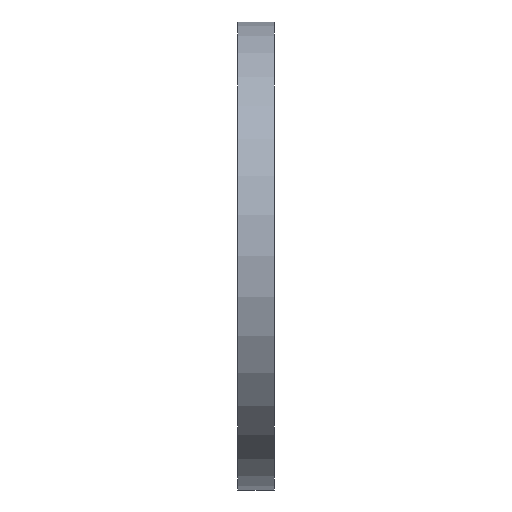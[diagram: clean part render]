
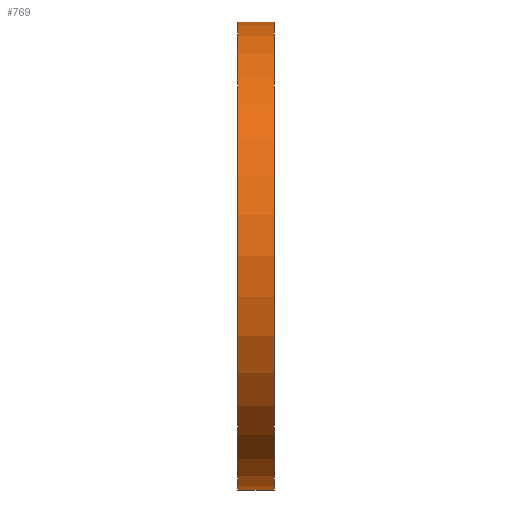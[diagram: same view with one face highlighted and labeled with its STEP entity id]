
A CAD part, left-side view. The second image highlights one B-rep face of the part: STEP entity #769.
In plain terms, the highlighted cylindrical face has radius 142.5 mm (diameter 285 mm), a partial arc.
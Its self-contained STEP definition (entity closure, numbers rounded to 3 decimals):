
#2 = VECTOR ( 'NONE', #226, 1000. ) ;
#5 = LINE ( 'NONE', #122, #875 ) ;
#9 = DIRECTION ( 'NONE',  ( 0., 0., 1. ) ) ;
#11 = EDGE_CURVE ( 'NONE', #465, #661, #151, .T. ) ;
#64 = DIRECTION ( 'NONE',  ( 0., 1., 0. ) ) ;
#122 = CARTESIAN_POINT ( 'NONE',  ( 0., 34.695, 142.5 ) ) ;
#151 = CIRCLE ( 'NONE', #215, 142.5 ) ;
#215 = AXIS2_PLACEMENT_3D ( 'NONE', #528, #439, #305 ) ;
#226 = DIRECTION ( 'NONE',  ( 0., 1., 0. ) ) ;
#248 = CARTESIAN_POINT ( 'NONE',  ( 0., 22., 0. ) ) ;
#255 = VERTEX_POINT ( 'NONE', #642 ) ;
#259 = EDGE_CURVE ( 'NONE', #465, #255, #791, .T. ) ;
#279 = FACE_OUTER_BOUND ( 'NONE', #386, .T. ) ;
#305 = DIRECTION ( 'NONE',  ( 0., 0., 1. ) ) ;
#337 = AXIS2_PLACEMENT_3D ( 'NONE', #248, #64, #410 ) ;
#340 = ORIENTED_EDGE ( 'NONE', *, *, #11, .T. ) ;
#356 = DIRECTION ( 'NONE',  ( 0., 1., 0. ) ) ;
#363 = CARTESIAN_POINT ( 'NONE',  ( 0., 0., -142.5 ) ) ;
#383 = VERTEX_POINT ( 'NONE', #814 ) ;
#386 = EDGE_LOOP ( 'NONE', ( #870, #340, #605, #474 ) ) ;
#410 = DIRECTION ( 'NONE',  ( 0., 0., 1. ) ) ;
#439 = DIRECTION ( 'NONE',  ( 0., 1., 0. ) ) ;
#458 = CARTESIAN_POINT ( 'NONE',  ( 0., 34.695, -142.5 ) ) ;
#465 = VERTEX_POINT ( 'NONE', #363 ) ;
#474 = ORIENTED_EDGE ( 'NONE', *, *, #555, .F. ) ;
#528 = CARTESIAN_POINT ( 'NONE',  ( 0., 0., 0. ) ) ;
#555 = EDGE_CURVE ( 'NONE', #255, #383, #711, .T. ) ;
#578 = EDGE_CURVE ( 'NONE', #661, #383, #5, .T. ) ;
#605 = ORIENTED_EDGE ( 'NONE', *, *, #578, .T. ) ;
#627 = CYLINDRICAL_SURFACE ( 'NONE', #858, 142.5 ) ;
#642 = CARTESIAN_POINT ( 'NONE',  ( 0., 22., -142.5 ) ) ;
#661 = VERTEX_POINT ( 'NONE', #699 ) ;
#693 = CARTESIAN_POINT ( 'NONE',  ( 0., 34.695, 0. ) ) ;
#699 = CARTESIAN_POINT ( 'NONE',  ( 0., 0., 142.5 ) ) ;
#711 = CIRCLE ( 'NONE', #337, 142.5 ) ;
#764 = DIRECTION ( 'NONE',  ( 0., 1., 0. ) ) ;
#769 = ADVANCED_FACE ( 'NONE', ( #279 ), #627, .T. ) ;
#791 = LINE ( 'NONE', #458, #2 ) ;
#814 = CARTESIAN_POINT ( 'NONE',  ( 0., 22., 142.5 ) ) ;
#858 = AXIS2_PLACEMENT_3D ( 'NONE', #693, #356, #9 ) ;
#870 = ORIENTED_EDGE ( 'NONE', *, *, #259, .F. ) ;
#875 = VECTOR ( 'NONE', #764, 1000. ) ;
